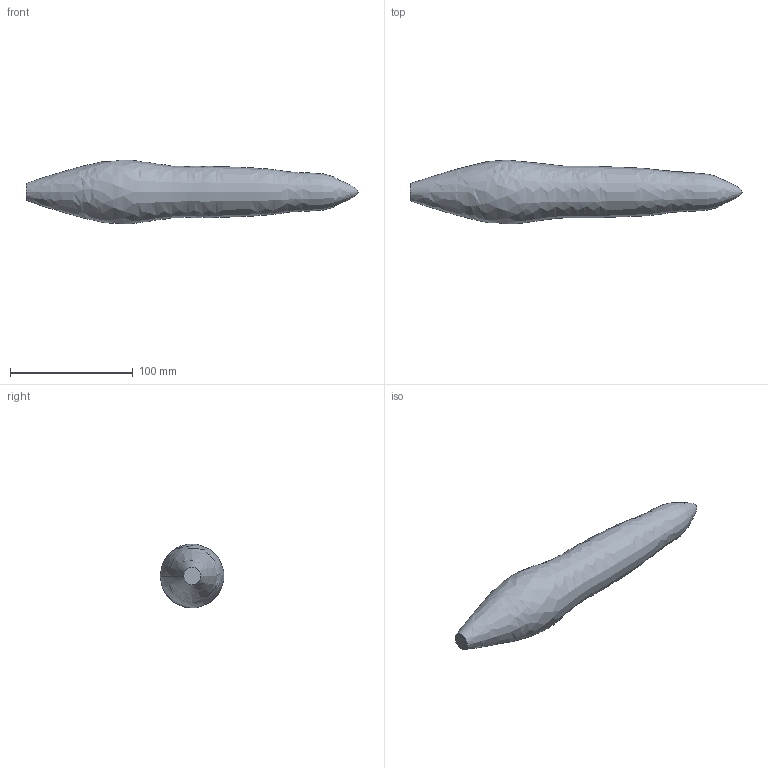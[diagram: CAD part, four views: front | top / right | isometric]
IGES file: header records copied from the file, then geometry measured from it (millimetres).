
Global section: file name: No Iges File Name specified; native system: AutoDesk Inventor R6.1; preprocessor: AutoDesk Inventor Iges Exporter R6.1; author: No Author specified; organization: No Organization specified; date: 20050811.082236; units: millimetre
Bounding box: 270 x 51.92 x 51.73 mm (x, y, z)
Surface area: 32056.9 mm2 (no closed solid volume)
Topology: 0 solids, 0 shells, 2 faces, 5 edges, 3 vertices
Faces by surface type: bspline 1, plane 1
